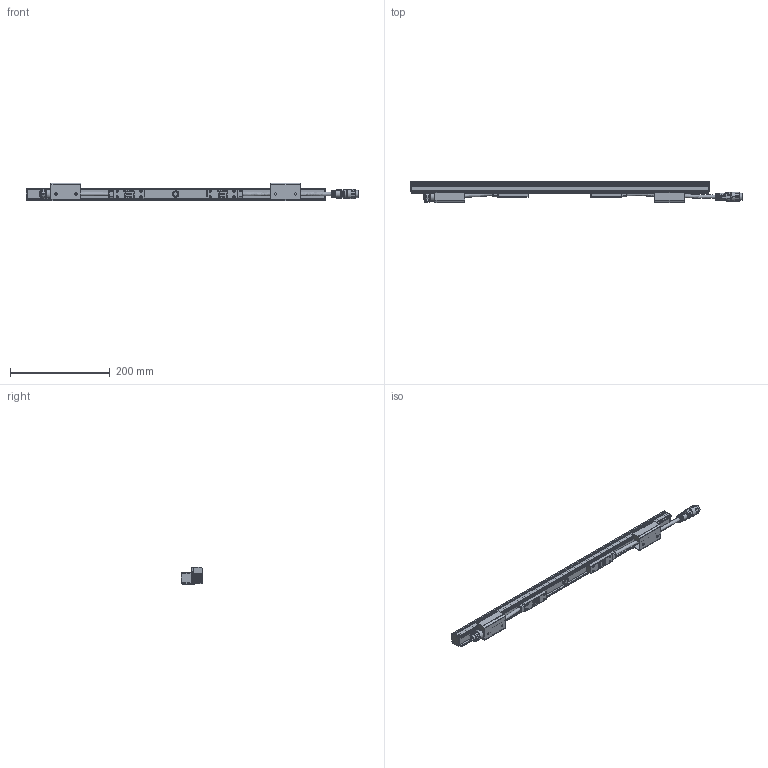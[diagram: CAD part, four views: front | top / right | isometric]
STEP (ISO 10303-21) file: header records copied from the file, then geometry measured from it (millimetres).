
FILE_DESCRIPTION (( 'STEP AP214' ), '1' );
FILE_NAME ('DiGi Linear D-Series 2 L600.STEP', '2025-11-24T13:51:06', ( '' ), ( '' ), 'SwSTEP 2.0', 'SolidWorks 2025', '' );
FILE_SCHEMA (( 'AUTOMOTIVE_DESIGN' ));
Length unit declared in the file: millimetre
Products named in the file (12): Counter sunk screw torx_M2.5x16; M16 5p Female; D series 2 body_600; D series 2 clip bottom; M16 5p Male; DiGi Linear D-Series 2 L600; D & E Series 2 breathing valve; Counter sunk screw torx_M2x6; Part1^DiGi Linear D-Series 2; D series 2 clip top; Part2^DiGi Linear D-Series 2; Counter sunk screw torx_M3x16
Assembly tree (30 placements, depth 2):
  DiGi Linear D-Series 2 L600
    D series 2 body_600
    D series 2 clip bottom  x2
    D series 2 clip top  x2
    Counter sunk screw torx_M3x16  x4
    Counter sunk screw torx_M2.5x16  x8
    Counter sunk screw torx_M2x6  x8
    M16 5p Female
    Part1^DiGi Linear D-Series 2
    M16 5p Male
    Part2^DiGi Linear D-Series 2
    D & E Series 2 breathing valve
Bounding box: 665.31 x 42.09 x 35.5 mm (x, y, z)
Volume: 363982.9 mm3; surface area: 139184 mm2
Topology: 35 solids, 38 shells, 2162 faces, 5444 edges, 3487 vertices
Faces by surface type: plane 892, cylinder 865, cone 134, bspline 130, torus 127, sphere 14
Full cylindrical faces by diameter (mm): 1.8 x4, 2 x8, 2.5 x8, 3 x12, 4.5 x8, 5.81 x4, 9.2 x1, 11.1 x1, 14.25 x1, 14.3 x1, 18 x1
Entity records: 72033 total; most frequent: CARTESIAN_POINT 22063, ORIENTED_EDGE 8740, DIRECTION 8283, EDGE_CURVE 4370, AXIS2_PLACEMENT_3D 3048, VERTEX_POINT 2814, VECTOR 2187, LINE 2187
